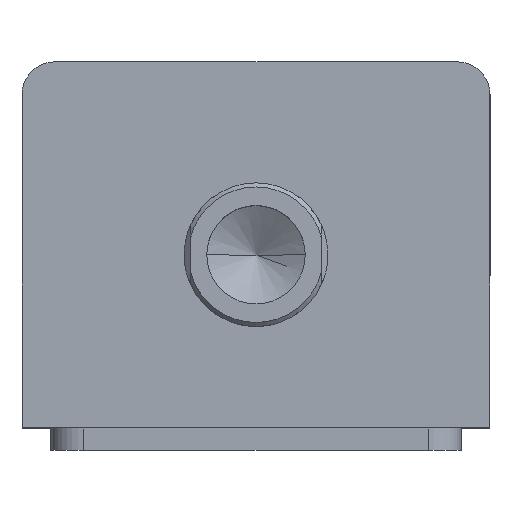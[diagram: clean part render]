
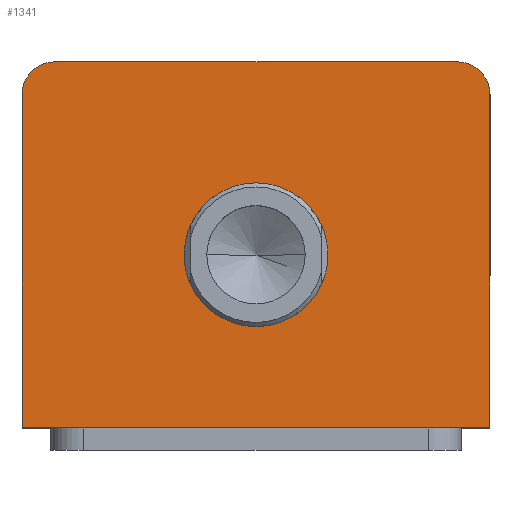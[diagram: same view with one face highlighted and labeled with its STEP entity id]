
A CAD part, top view. The second image highlights one B-rep face of the part: STEP entity #1341.
In plain terms, the highlighted planar face has unit normal (0, 0, 1).
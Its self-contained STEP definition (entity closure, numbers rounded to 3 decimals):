
#158 = FACE_BOUND ( 'NONE', #1795, .T. ) ;
#159 = FACE_OUTER_BOUND ( 'NONE', #1758, .T. ) ;
#162 = VECTOR ( 'NONE', #954, 1000. ) ;
#163 = LINE ( 'NONE', #3304, #162 ) ;
#173 = CIRCLE ( 'NONE', #2889, 17.5 ) ;
#177 = CIRCLE ( 'NONE', #2887, 17.5 ) ;
#209 = ORIENTED_EDGE ( 'NONE', *, *, #294, .T. ) ;
#226 = ORIENTED_EDGE ( 'NONE', *, *, #2127, .F. ) ;
#294 = EDGE_CURVE ( 'NONE', #2684, #2709, #1637, .T. ) ;
#665 = DIRECTION ( 'NONE',  ( 0., -1., 0. ) ) ;
#666 = CARTESIAN_POINT ( 'NONE',  ( -57., 44.5, 122. ) ) ;
#733 = DIRECTION ( 'NONE',  ( 1., 0., 0. ) ) ;
#734 = DIRECTION ( 'NONE',  ( 0., 0., 1. ) ) ;
#735 = CARTESIAN_POINT ( 'NONE',  ( -49., 36.5, 122. ) ) ;
#848 = EDGE_CURVE ( 'NONE', #2709, #2754, #1607, .T. ) ;
#954 = DIRECTION ( 'NONE',  ( 1., 0., 0. ) ) ;
#985 = CARTESIAN_POINT ( 'NONE',  ( 57., 36.5, 122. ) ) ;
#990 = CARTESIAN_POINT ( 'NONE',  ( -57., -44.5, 122. ) ) ;
#1005 = CARTESIAN_POINT ( 'NONE',  ( 17.5, -2.5, 122. ) ) ;
#1015 = CARTESIAN_POINT ( 'NONE',  ( -17.5, -2.5, 122. ) ) ;
#1017 = DIRECTION ( 'NONE',  ( 0., 0., 1. ) ) ;
#1047 = CARTESIAN_POINT ( 'NONE',  ( -57., 36.5, 122. ) ) ;
#1056 = CARTESIAN_POINT ( 'NONE',  ( 57., -44.5, 122. ) ) ;
#1067 = CARTESIAN_POINT ( 'NONE',  ( 49., 44.5, 122. ) ) ;
#1080 = CARTESIAN_POINT ( 'NONE',  ( -49., 44.5, 122. ) ) ;
#1091 = CARTESIAN_POINT ( 'NONE',  ( 0., -2.5, 122. ) ) ;
#1126 = DIRECTION ( 'NONE',  ( 1., 0., 0. ) ) ;
#1154 = CIRCLE ( 'NONE', #2859, 8. ) ;
#1186 = AXIS2_PLACEMENT_3D ( 'NONE', #735, #734, #733 ) ;
#1341 = ADVANCED_FACE ( 'NONE', ( #158, #159 ), #3108, .T. ) ;
#1406 = DIRECTION ( 'NONE',  ( 0., 1., 0. ) ) ;
#1415 = CARTESIAN_POINT ( 'NONE',  ( 57., 44.5, 122. ) ) ;
#1442 = DIRECTION ( 'NONE',  ( -1., 0., 0. ) ) ;
#1443 = CARTESIAN_POINT ( 'NONE',  ( -57., 44.5, 122. ) ) ;
#1604 = VECTOR ( 'NONE', #665, 1000. ) ;
#1607 = LINE ( 'NONE', #666, #1604 ) ;
#1637 = CIRCLE ( 'NONE', #1186, 8. ) ;
#1758 = EDGE_LOOP ( 'NONE', ( #2404, #209, #2538, #2506, #2543, #2642 ) ) ;
#1795 = EDGE_LOOP ( 'NONE', ( #226, #3252 ) ) ;
#2016 = EDGE_CURVE ( 'NONE', #2759, #2696, #1154, .T. ) ;
#2124 = EDGE_CURVE ( 'NONE', #2733, #2741, #177, .T. ) ;
#2127 = EDGE_CURVE ( 'NONE', #2741, #2733, #173, .T. ) ;
#2133 = EDGE_CURVE ( 'NONE', #2754, #2702, #163, .T. ) ;
#2162 = LINE ( 'NONE', #1415, #2168 ) ;
#2168 = VECTOR ( 'NONE', #1406, 1000. ) ;
#2194 = LINE ( 'NONE', #1443, #2197 ) ;
#2197 = VECTOR ( 'NONE', #1442, 1000. ) ;
#2404 = ORIENTED_EDGE ( 'NONE', *, *, #3464, .T. ) ;
#2506 = ORIENTED_EDGE ( 'NONE', *, *, #2133, .T. ) ;
#2538 = ORIENTED_EDGE ( 'NONE', *, *, #848, .T. ) ;
#2543 = ORIENTED_EDGE ( 'NONE', *, *, #3447, .T. ) ;
#2642 = ORIENTED_EDGE ( 'NONE', *, *, #2016, .T. ) ;
#2684 = VERTEX_POINT ( 'NONE', #1080 ) ;
#2696 = VERTEX_POINT ( 'NONE', #1067 ) ;
#2702 = VERTEX_POINT ( 'NONE', #1056 ) ;
#2709 = VERTEX_POINT ( 'NONE', #1047 ) ;
#2733 = VERTEX_POINT ( 'NONE', #1015 ) ;
#2741 = VERTEX_POINT ( 'NONE', #1005 ) ;
#2754 = VERTEX_POINT ( 'NONE', #990 ) ;
#2759 = VERTEX_POINT ( 'NONE', #985 ) ;
#2850 = AXIS2_PLACEMENT_3D ( 'NONE', #3114, #3103, #3102 ) ;
#2859 = AXIS2_PLACEMENT_3D ( 'NONE', #3059, #3058, #3057 ) ;
#2887 = AXIS2_PLACEMENT_3D ( 'NONE', #3308, #3307, #3306 ) ;
#2889 = AXIS2_PLACEMENT_3D ( 'NONE', #1091, #1017, #1126 ) ;
#3057 = DIRECTION ( 'NONE',  ( 1., 0., 0. ) ) ;
#3058 = DIRECTION ( 'NONE',  ( 0., 0., 1. ) ) ;
#3059 = CARTESIAN_POINT ( 'NONE',  ( 49., 36.5, 122. ) ) ;
#3102 = DIRECTION ( 'NONE',  ( 1., 0., 0. ) ) ;
#3103 = DIRECTION ( 'NONE',  ( 0., 0., 1. ) ) ;
#3108 = PLANE ( 'NONE',  #2850 ) ;
#3114 = CARTESIAN_POINT ( 'NONE',  ( 0., 0., 122. ) ) ;
#3252 = ORIENTED_EDGE ( 'NONE', *, *, #2124, .F. ) ;
#3304 = CARTESIAN_POINT ( 'NONE',  ( -57., -44.5, 122. ) ) ;
#3306 = DIRECTION ( 'NONE',  ( 1., 0., 0. ) ) ;
#3307 = DIRECTION ( 'NONE',  ( 0., 0., 1. ) ) ;
#3308 = CARTESIAN_POINT ( 'NONE',  ( 0., -2.5, 122. ) ) ;
#3447 = EDGE_CURVE ( 'NONE', #2702, #2759, #2162, .T. ) ;
#3464 = EDGE_CURVE ( 'NONE', #2696, #2684, #2194, .T. ) ;
